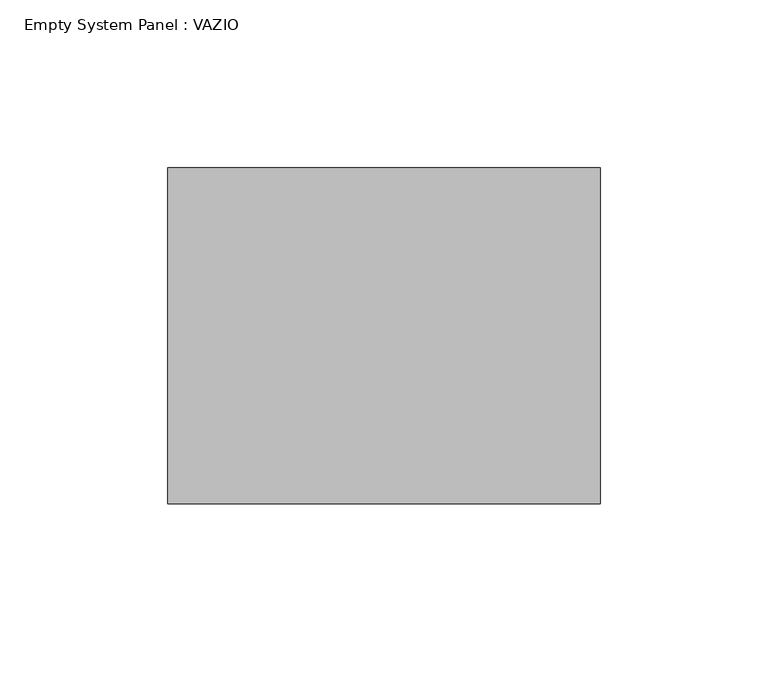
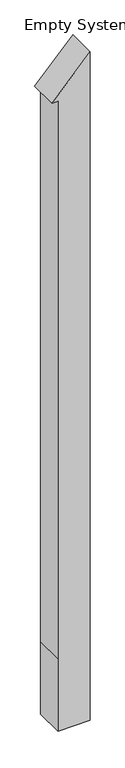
"""IFC4 building model written with IfcOpenShell, lengths in millimetres: plate geometry, Empty System Panel : VAZIO."""

from ifc_helpers import new_model, si_unit, point, frame, frame_2d, origin, place, context, project, spatial, polyline, circle_curve, trimmed, segment, composite_curve, outline, extrude, source, transform, mapped, element, save


def empty_system_panel_vazio_a540620c(model_context):
    return source(origin(), model_context, "Body", "SweptSolid", [
        extrude(outline(composite_curve([segment(polyline([(0.0, -44.3902439), (0.0, 64.3902439), (256.7936467, 64.3902439), (2378.3362351, 64.3902439)]), True, "CONTINUOUS"), segment(trimmed(circle_curve(frame_2d((3146.6227404, -896.1483791)), 1229.9994311), [point((2378.3362351, 64.3902439))], [point((2240.4897451, -64.3902439))], True, "CARTESIAN"), True, "CONTINUOUS"), segment(polyline([(2240.4897451, -64.3902439), (2240.4897451, -44.3902439), (256.7936467, -44.3902439), (0.0, -44.3902439)]), True, "CONTINUOUS")], self_intersect=False)), frame((0.0, -50.0, 0.0), z_axis=(0.0, 1.0, 0.0), x_axis=(0.0, 0.0, 1.0)), (0.0, 0.0, 1.0), 100.0),
    ])


if __name__ == "__main__":
    model = new_model("IFC4")
    model_context = context("Model", 3, world=origin())
    ifc_project = project(units=[si_unit("LENGTHUNIT", "METRE", prefix="MILLI")], contexts=[model_context])
    site = spatial("IfcSite", under=ifc_project)
    building = spatial("IfcBuilding", under=site)
    placement = place(None, origin())
    empty_system_panel_vazio_shape = empty_system_panel_vazio_a540620c(model_context)
    element("IfcPlate", 1, ObjectType="Empty System Panel : VAZIO", at=placement, inside=building, context=model_context, shape_type="MappedRepresentation", body=[
        mapped(empty_system_panel_vazio_shape, transform((0.0, 0.0, 0.0), x_axis=(1.0, 0.0, 0.0), y_axis=(0.0, 1.0, 0.0), z_axis=(0.0, 0.0, 1.0))),
    ])
    save(model, "model.ifc")
